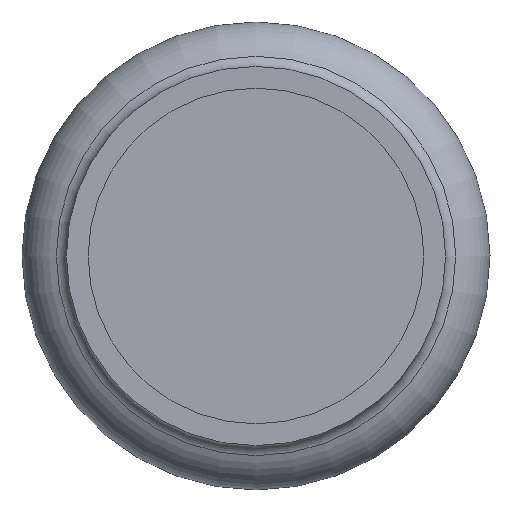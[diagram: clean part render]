
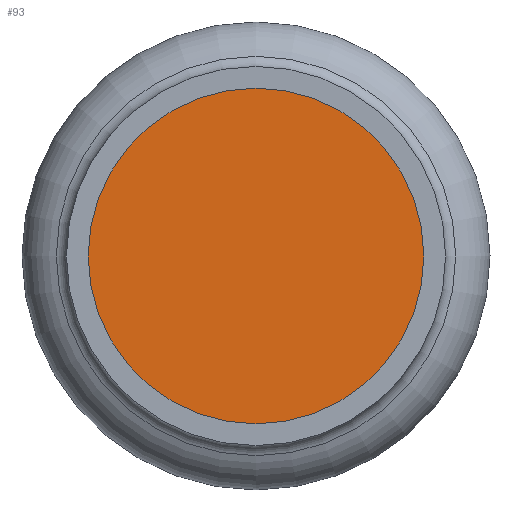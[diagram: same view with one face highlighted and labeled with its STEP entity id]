
A CAD part, front view. The second image highlights one B-rep face of the part: STEP entity #93.
In plain terms, the highlighted planar face has unit normal (0, -1, 0).
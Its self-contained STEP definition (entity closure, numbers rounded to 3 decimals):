
#93=ADVANCED_FACE('',(#406),#408,.T.);
#406=FACE_BOUND('',#407,.T.);
#407=EDGE_LOOP('',(#562));
#408=PLANE('',#409);
#409=AXIS2_PLACEMENT_3D('',#410,#411,#412);
#410=CARTESIAN_POINT('',(0.,7.221,0.));
#411=DIRECTION('',(0.,-1.,0.));
#412=DIRECTION('',(0.,0.,-1.));
#562=ORIENTED_EDGE('',*,*,#637,.T.);
#637=EDGE_CURVE('',#763,#763,#764,.F.);
#763=VERTEX_POINT('',#1885);
#764=CIRCLE('',#1886,11.15);
#1885=CARTESIAN_POINT('',(0.,7.221,11.15));
#1886=AXIS2_PLACEMENT_3D('',#1887,#1888,#1889);
#1887=CARTESIAN_POINT('',(0.,7.221,0.));
#1888=DIRECTION('',(0.,1.,0.));
#1889=DIRECTION('',(0.,0.,1.));
